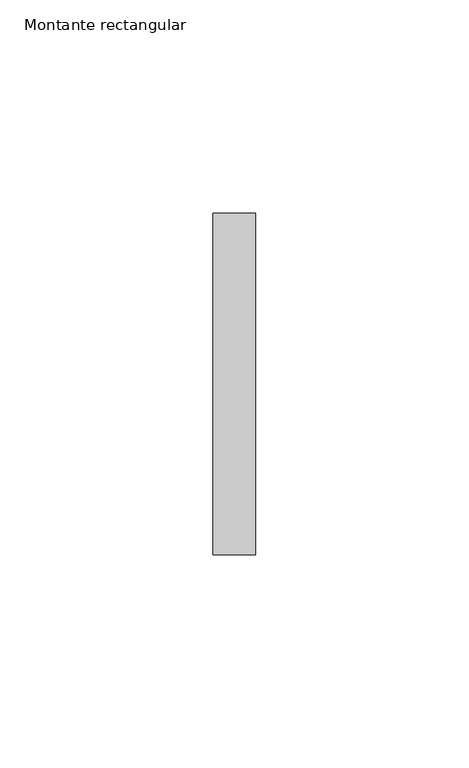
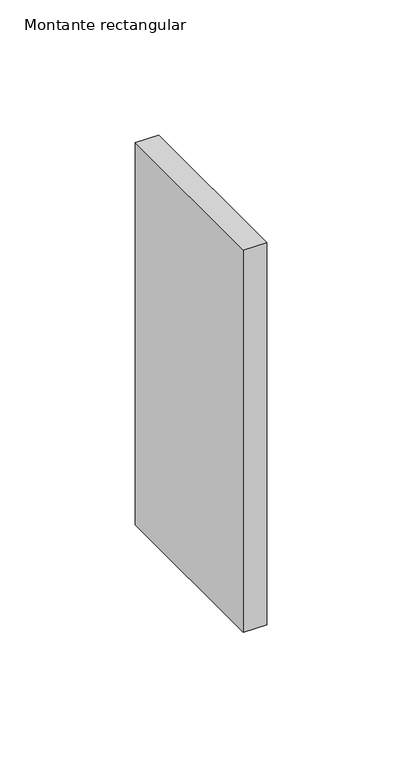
"""IFC4 building model written with IfcOpenShell, lengths in millimetres: member geometry, Montante rectangular : Junta de paves."""

from ifc_helpers import new_model, si_unit, frame, origin, place, context, project, spatial, polyline, outline, extrude, source, transform, mapped, element, save


def montante_rectangular_142802ca(model_context):
    return source(origin(), model_context, "Body", "SweptSolid", [
        extrude(outline(polyline([(5.0, 40.0), (5.0, -40.0), (-5.0, -40.0), (-5.0, 40.0), (5.0, 40.0)])), frame((0.0, 0.0, -172.7385141), z_axis=(0.0, 0.0, 1.0), x_axis=(1.0, 0.0, 0.0)), (0.0, 0.0, 1.0), 172.7385141),
    ])


if __name__ == "__main__":
    model = new_model("IFC4")
    model_context = context("Model", 3, world=origin())
    ifc_project = project(units=[si_unit("LENGTHUNIT", "METRE", prefix="MILLI")], contexts=[model_context])
    site = spatial("IfcSite", under=ifc_project)
    building = spatial("IfcBuilding", under=site)
    placement = place(None, origin())
    montante_rectangular_shape = montante_rectangular_142802ca(model_context)
    element("IfcMember", 1, ObjectType="Montante rectangular : Junta de paves", at=placement, inside=building, context=model_context, shape_type="MappedRepresentation", body=[
        mapped(montante_rectangular_shape, transform((0.0, 0.0, 0.0), x_axis=(1.0, 0.0, 0.0), y_axis=(0.0, 1.0, 0.0), z_axis=(0.0, 0.0, 1.0))),
    ])
    save(model, "model.ifc")
